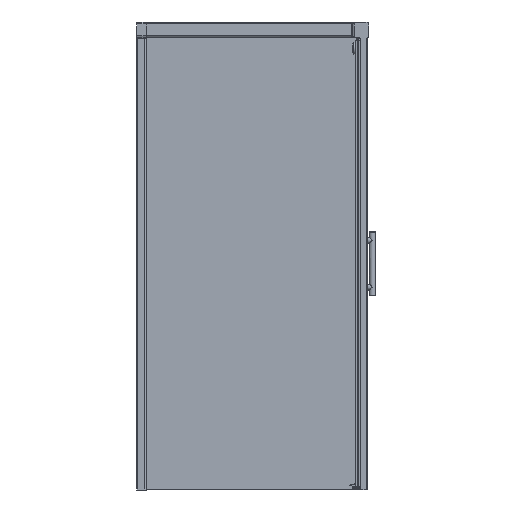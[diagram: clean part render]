
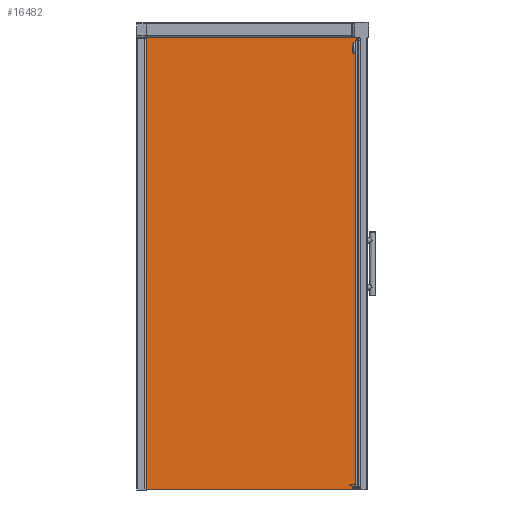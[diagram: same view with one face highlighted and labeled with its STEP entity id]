
A CAD part, front view. The second image highlights one B-rep face of the part: STEP entity #16482.
In plain terms, the highlighted planar face has unit normal (0, -1, 0).
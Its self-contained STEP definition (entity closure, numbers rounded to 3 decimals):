
#1478=FACE_OUTER_BOUND($,#2389,.T.);
#2389=EDGE_LOOP($,(#11655,#11656,#11657,#11658,#11659,#11660,#11661,#11662));
#3584=LINE($,#25270,#5193);
#3595=LINE($,#25293,#5204);
#3596=LINE($,#25297,#5205);
#3597=LINE($,#25298,#5206);
#3598=LINE($,#25300,#5207);
#3599=LINE($,#25302,#5208);
#3600=LINE($,#25303,#5209);
#3601=LINE($,#25304,#5210);
#5193=VECTOR($,#20102,1543.5);
#5204=VECTOR($,#20117,1.);
#5205=VECTOR($,#20120,1549.);
#5206=VECTOR($,#20121,10.);
#5207=VECTOR($,#20122,730.709);
#5208=VECTOR($,#20123,6.5);
#5209=VECTOR($,#20124,0.391);
#5210=VECTOR($,#20125,721.1);
#6778=VERTEX_POINT($,#25268);
#6779=VERTEX_POINT($,#25269);
#6787=VERTEX_POINT($,#25287);
#6789=VERTEX_POINT($,#25291);
#6790=VERTEX_POINT($,#25295);
#6791=VERTEX_POINT($,#25296);
#6792=VERTEX_POINT($,#25299);
#6793=VERTEX_POINT($,#25301);
#8572=EDGE_CURVE($,#6778,#6779,#3584,.T.);
#8583=EDGE_CURVE($,#6787,#6789,#3595,.T.);
#8584=EDGE_CURVE($,#6790,#6791,#3596,.T.);
#8585=EDGE_CURVE($,#6787,#6790,#3597,.T.);
#8586=EDGE_CURVE($,#6792,#6789,#3598,.T.);
#8587=EDGE_CURVE($,#6793,#6792,#3599,.T.);
#8588=EDGE_CURVE($,#6779,#6793,#3600,.T.);
#8589=EDGE_CURVE($,#6791,#6778,#3601,.T.);
#11655=ORIENTED_EDGE($,*,*,#8584,.F.);
#11656=ORIENTED_EDGE($,*,*,#8585,.F.);
#11657=ORIENTED_EDGE($,*,*,#8583,.T.);
#11658=ORIENTED_EDGE($,*,*,#8586,.F.);
#11659=ORIENTED_EDGE($,*,*,#8587,.F.);
#11660=ORIENTED_EDGE($,*,*,#8588,.F.);
#11661=ORIENTED_EDGE($,*,*,#8572,.F.);
#11662=ORIENTED_EDGE($,*,*,#8589,.F.);
#15011=PLANE($,#17529);
#16482=ADVANCED_FACE($,(#1478),#15011,.T.);
#17529=AXIS2_PLACEMENT_3D($,#25294,#20118,#20119);
#20102=DIRECTION($,(0.,0.,1.));
#20117=DIRECTION($,(0.,0.,1.));
#20118=DIRECTION('center_axis',(0.,-1.,0.));
#20119=DIRECTION('ref_axis',(1.,0.,0.));
#20120=DIRECTION($,(0.,0.,-1.));
#20121=DIRECTION($,(-1.,0.,0.));
#20122=DIRECTION($,(1.,0.,0.));
#20123=DIRECTION($,(0.,0.,1.));
#20124=DIRECTION($,(1.,0.,0.));
#20125=DIRECTION($,(-1.,0.,0.));
#25268=CARTESIAN_POINT('',(1045.986,1255.2,550.));
#25269=CARTESIAN_POINT('',(1045.986,1255.2,2093.5));
#25270=CARTESIAN_POINT($,(1045.986,1255.2,550.5));
#25287=CARTESIAN_POINT('',(1777.086,1255.2,2099.));
#25291=CARTESIAN_POINT('',(1777.086,1255.2,2100.));
#25293=CARTESIAN_POINT($,(1777.086,1255.2,551.));
#25294=CARTESIAN_POINT('Origin',(1022.086,1255.2,551.));
#25295=CARTESIAN_POINT('',(1767.086,1255.2,2099.));
#25296=CARTESIAN_POINT('',(1767.086,1255.2,550.));
#25297=CARTESIAN_POINT($,(1767.086,1255.2,1325.));
#25298=CARTESIAN_POINT($,(1408.686,1255.2,2099.));
#25299=CARTESIAN_POINT('',(1046.377,1255.2,2100.));
#25300=CARTESIAN_POINT($,(1410.436,1255.2,2100.));
#25301=CARTESIAN_POINT('',(1046.377,1255.2,2093.5));
#25302=CARTESIAN_POINT($,(1046.377,1255.2,1322.25));
#25303=CARTESIAN_POINT($,(1026.669,1255.2,2093.5));
#25304=CARTESIAN_POINT($,(1777.086,1255.2,550.));
